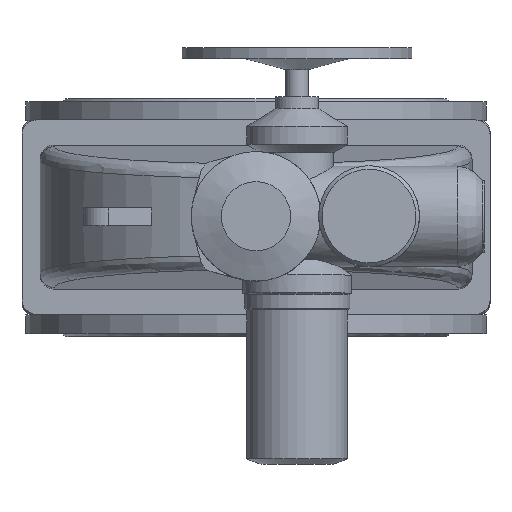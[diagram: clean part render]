
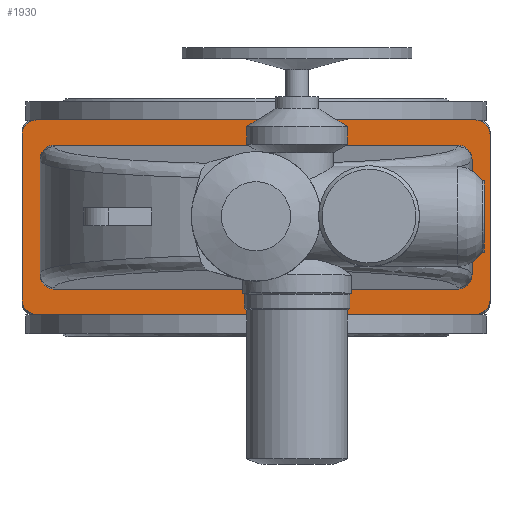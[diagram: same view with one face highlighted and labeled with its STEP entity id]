
A CAD part, top view. The second image highlights one B-rep face of the part: STEP entity #1930.
In plain terms, the highlighted planar face has unit normal (0, 0, 1).
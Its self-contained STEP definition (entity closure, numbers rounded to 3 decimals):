
#1930=ADVANCED_FACE('',(#6315,#6317),#6319,.T.);
#6315=FACE_BOUND('',#6316,.T.);
#6316=EDGE_LOOP('',(#9156,#9157,#9158,#9159,#9160,#9161,#9162,#9163));
#6317=FACE_BOUND('',#6318,.T.);
#6318=EDGE_LOOP('',(#9164,#9165,#9166,#9167,#9168,#9169,#9170,#9171));
#6319=PLANE('',#6320);
#6320=AXIS2_PLACEMENT_3D('',#6321,#6322,#6323);
#6321=CARTESIAN_POINT('',(0.,0.,516.));
#6322=DIRECTION('',(0.,-0.,1.));
#6323=DIRECTION('',(0.,1.,0.));
#9156=ORIENTED_EDGE('',*,*,#10294,.F.);
#9157=ORIENTED_EDGE('',*,*,#10307,.T.);
#9158=ORIENTED_EDGE('',*,*,#10306,.F.);
#9159=ORIENTED_EDGE('',*,*,#10304,.T.);
#9160=ORIENTED_EDGE('',*,*,#10302,.F.);
#9161=ORIENTED_EDGE('',*,*,#10300,.T.);
#9162=ORIENTED_EDGE('',*,*,#10298,.F.);
#9163=ORIENTED_EDGE('',*,*,#10295,.T.);
#9164=ORIENTED_EDGE('',*,*,#10308,.F.);
#9165=ORIENTED_EDGE('',*,*,#10309,.F.);
#9166=ORIENTED_EDGE('',*,*,#10310,.F.);
#9167=ORIENTED_EDGE('',*,*,#10311,.F.);
#9168=ORIENTED_EDGE('',*,*,#10312,.F.);
#9169=ORIENTED_EDGE('',*,*,#10313,.F.);
#9170=ORIENTED_EDGE('',*,*,#10314,.F.);
#9171=ORIENTED_EDGE('',*,*,#10315,.F.);
#10294=EDGE_CURVE('',#11591,#11589,#11593,.F.);
#10295=EDGE_CURVE('',#11594,#11589,#11595,.T.);
#10298=EDGE_CURVE('',#11594,#11597,#11599,.F.);
#10300=EDGE_CURVE('',#11600,#11597,#11602,.T.);
#10302=EDGE_CURVE('',#11600,#11603,#11605,.F.);
#10304=EDGE_CURVE('',#11606,#11603,#11608,.T.);
#10306=EDGE_CURVE('',#11606,#11609,#11611,.F.);
#10307=EDGE_CURVE('',#11591,#11609,#11612,.T.);
#10308=EDGE_CURVE('',#11613,#11614,#11615,.F.);
#10309=EDGE_CURVE('',#11616,#11613,#11617,.T.);
#10310=EDGE_CURVE('',#11618,#11616,#11619,.T.);
#10311=EDGE_CURVE('',#11620,#11618,#11621,.T.);
#10312=EDGE_CURVE('',#11622,#11620,#11623,.F.);
#10313=EDGE_CURVE('',#11624,#11622,#11625,.T.);
#10314=EDGE_CURVE('',#11626,#11624,#11627,.T.);
#10315=EDGE_CURVE('',#11614,#11626,#11628,.T.);
#11589=VERTEX_POINT('',#17025);
#11591=VERTEX_POINT('',#17029);
#11593=CIRCLE('',#17033,20.);
#11594=VERTEX_POINT('',#17037);
#11595=LINE('',#17038,#17039);
#11597=VERTEX_POINT('',#17044);
#11599=CIRCLE('',#17048,20.);
#11600=VERTEX_POINT('',#17052);
#11602=LINE('',#17056,#17057);
#11603=VERTEX_POINT('',#17059);
#11605=CIRCLE('',#17063,20.);
#11606=VERTEX_POINT('',#17067);
#11608=LINE('',#17071,#17072);
#11609=VERTEX_POINT('',#17074);
#11611=CIRCLE('',#17078,20.);
#11612=LINE('',#17082,#17083);
#11613=VERTEX_POINT('',#17085);
#11614=VERTEX_POINT('',#17086);
#11615=(BOUNDED_CURVE()B_SPLINE_CURVE(3,
(#17087,#17088,#17089,#17090),
.UNSPECIFIED.,.F.,.F.)B_SPLINE_CURVE_WITH_KNOTS((4,4),
(0.,1.),
.UNSPECIFIED.)CURVE()GEOMETRIC_REPRESENTATION_ITEM()RATIONAL_B_SPLINE_CURVE((1.,
0.805,0.805,1.))REPRESENTATION_ITEM(''));
#11616=VERTEX_POINT('',#17091);
#11617=LINE('',#17092,#17093);
#11618=VERTEX_POINT('',#17095);
#11619=(BOUNDED_CURVE()B_SPLINE_CURVE(3,
(#17096,#17097,#17098,#17099),
.UNSPECIFIED.,.F.,.F.)B_SPLINE_CURVE_WITH_KNOTS((4,4),
(0.,1.),
.UNSPECIFIED.)CURVE()GEOMETRIC_REPRESENTATION_ITEM()RATIONAL_B_SPLINE_CURVE((1.,
0.805,0.805,1.))REPRESENTATION_ITEM(''));
#11620=VERTEX_POINT('',#17100);
#11621=LINE('',#17101,#17102);
#11622=VERTEX_POINT('',#17104);
#11623=(BOUNDED_CURVE()B_SPLINE_CURVE(3,
(#17105,#17106,#17107,#17108),
.UNSPECIFIED.,.F.,.F.)B_SPLINE_CURVE_WITH_KNOTS((4,4),
(0.,1.),
.UNSPECIFIED.)CURVE()GEOMETRIC_REPRESENTATION_ITEM()RATIONAL_B_SPLINE_CURVE((1.,
0.805,0.805,1.))REPRESENTATION_ITEM(''));
#11624=VERTEX_POINT('',#17109);
#11625=LINE('',#17110,#17111);
#11626=VERTEX_POINT('',#17113);
#11627=(BOUNDED_CURVE()B_SPLINE_CURVE(3,
(#17114,#17115,#17116,#17117),
.UNSPECIFIED.,.F.,.F.)B_SPLINE_CURVE_WITH_KNOTS((4,4),
(0.,1.),
.UNSPECIFIED.)CURVE()GEOMETRIC_REPRESENTATION_ITEM()RATIONAL_B_SPLINE_CURVE((1.,
0.805,0.805,1.))REPRESENTATION_ITEM(''));
#11628=LINE('',#17118,#17119);
#17025=CARTESIAN_POINT('',(-325.,-115.,516.));
#17029=CARTESIAN_POINT('',(-305.,-135.,516.));
#17033=AXIS2_PLACEMENT_3D('',#17034,#17035,#17036);
#17034=CARTESIAN_POINT('',(-305.,-115.,516.));
#17035=DIRECTION('',(0.,-0.,1.));
#17036=DIRECTION('',(-1.,0.,0.));
#17037=CARTESIAN_POINT('',(-325.,115.,516.));
#17038=CARTESIAN_POINT('',(-325.,115.,516.));
#17039=VECTOR('',#17040,1.);
#17040=DIRECTION('',(0.,-1.,0.));
#17044=CARTESIAN_POINT('',(-305.,135.,516.));
#17048=AXIS2_PLACEMENT_3D('',#17049,#17050,#17051);
#17049=CARTESIAN_POINT('',(-305.,115.,516.));
#17050=DIRECTION('',(0.,-0.,1.));
#17051=DIRECTION('',(0.,1.,0.));
#17052=CARTESIAN_POINT('',(305.,135.,516.));
#17056=CARTESIAN_POINT('',(305.,135.,516.));
#17057=VECTOR('',#17058,1.);
#17058=DIRECTION('',(-1.,0.,0.));
#17059=CARTESIAN_POINT('',(325.,115.,516.));
#17063=AXIS2_PLACEMENT_3D('',#17064,#17065,#17066);
#17064=CARTESIAN_POINT('',(305.,115.,516.));
#17065=DIRECTION('',(0.,-0.,1.));
#17066=DIRECTION('',(1.,0.,0.));
#17067=CARTESIAN_POINT('',(325.,-115.,516.));
#17071=CARTESIAN_POINT('',(325.,-115.,516.));
#17072=VECTOR('',#17073,1.);
#17073=DIRECTION('',(0.,1.,0.));
#17074=CARTESIAN_POINT('',(305.,-135.,516.));
#17078=AXIS2_PLACEMENT_3D('',#17079,#17080,#17081);
#17079=CARTESIAN_POINT('',(305.,-115.,516.));
#17080=DIRECTION('',(0.,-0.,1.));
#17081=DIRECTION('',(0.,-1.,0.));
#17082=CARTESIAN_POINT('',(-305.,-135.,516.));
#17083=VECTOR('',#17084,1.);
#17084=DIRECTION('',(1.,0.,0.));
#17085=CARTESIAN_POINT('',(280.,-100.,516.));
#17086=CARTESIAN_POINT('',(300.,-79.924,516.));
#17087=CARTESIAN_POINT('',(300.,-79.924,516.));
#17088=CARTESIAN_POINT('',(300.,-91.684,516.));
#17089=CARTESIAN_POINT('',(291.716,-100.,516.));
#17090=CARTESIAN_POINT('',(280.,-100.,516.));
#17091=CARTESIAN_POINT('',(-280.,-100.,516.));
#17092=CARTESIAN_POINT('',(-280.,-100.,516.));
#17093=VECTOR('',#17094,1.);
#17094=DIRECTION('',(1.,0.,0.));
#17095=CARTESIAN_POINT('',(-300.,-79.924,516.));
#17096=CARTESIAN_POINT('',(-300.,-79.924,516.));
#17097=CARTESIAN_POINT('',(-300.,-91.684,516.));
#17098=CARTESIAN_POINT('',(-291.716,-100.,516.));
#17099=CARTESIAN_POINT('',(-280.,-100.,516.));
#17100=CARTESIAN_POINT('',(-300.,79.924,516.));
#17101=CARTESIAN_POINT('',(-300.,79.924,516.));
#17102=VECTOR('',#17103,1.);
#17103=DIRECTION('',(0.,-1.,0.));
#17104=CARTESIAN_POINT('',(-280.,100.,516.));
#17105=CARTESIAN_POINT('',(-300.,79.924,516.));
#17106=CARTESIAN_POINT('',(-300.,91.684,516.));
#17107=CARTESIAN_POINT('',(-291.716,100.,516.));
#17108=CARTESIAN_POINT('',(-280.,100.,516.));
#17109=CARTESIAN_POINT('',(280.,100.,516.));
#17110=CARTESIAN_POINT('',(280.,100.,516.));
#17111=VECTOR('',#17112,1.);
#17112=DIRECTION('',(-1.,0.,0.));
#17113=CARTESIAN_POINT('',(300.,79.924,516.));
#17114=CARTESIAN_POINT('',(300.,79.924,516.));
#17115=CARTESIAN_POINT('',(300.,91.684,516.));
#17116=CARTESIAN_POINT('',(291.716,100.,516.));
#17117=CARTESIAN_POINT('',(280.,100.,516.));
#17118=CARTESIAN_POINT('',(300.,-79.924,516.));
#17119=VECTOR('',#17120,1.);
#17120=DIRECTION('',(0.,1.,0.));
